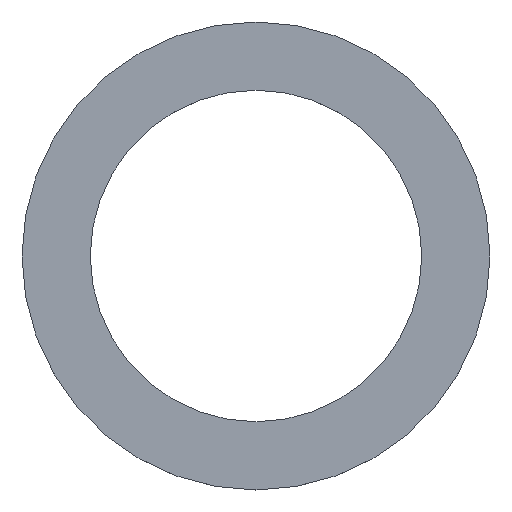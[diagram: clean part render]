
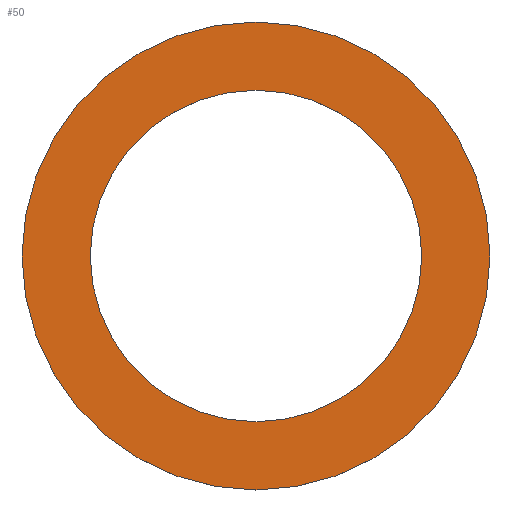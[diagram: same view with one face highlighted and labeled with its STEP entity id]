
A CAD part, top view. The second image highlights one B-rep face of the part: STEP entity #50.
In plain terms, the highlighted planar face has unit normal (0, 0, 1).
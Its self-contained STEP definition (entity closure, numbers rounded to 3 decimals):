
#21 = EDGE_CURVE('',#22,#22,#24,.T.);
#22 = VERTEX_POINT('',#23);
#23 = CARTESIAN_POINT('',(12.,0.,17.7));
#24 = CIRCLE('',#25,12.);
#25 = AXIS2_PLACEMENT_3D('',#26,#27,#28);
#26 = CARTESIAN_POINT('',(0.,0.,17.7));
#27 = DIRECTION('',(0.,0.,1.));
#28 = DIRECTION('',(1.,0.,0.));
#50 = ADVANCED_FACE('',(#51,#54),#65,.T.);
#51 = FACE_BOUND('',#52,.T.);
#52 = EDGE_LOOP('',(#53));
#53 = ORIENTED_EDGE('',*,*,#21,.T.);
#54 = FACE_BOUND('',#55,.T.);
#55 = EDGE_LOOP('',(#56));
#56 = ORIENTED_EDGE('',*,*,#57,.F.);
#57 = EDGE_CURVE('',#58,#58,#60,.T.);
#58 = VERTEX_POINT('',#59);
#59 = CARTESIAN_POINT('',(8.5,0.,17.7));
#60 = CIRCLE('',#61,8.5);
#61 = AXIS2_PLACEMENT_3D('',#62,#63,#64);
#62 = CARTESIAN_POINT('',(0.,0.,17.7));
#63 = DIRECTION('',(0.,0.,1.));
#64 = DIRECTION('',(1.,0.,0.));
#65 = PLANE('',#66);
#66 = AXIS2_PLACEMENT_3D('',#67,#68,#69);
#67 = CARTESIAN_POINT('',(0.,0.,17.7));
#68 = DIRECTION('',(0.,0.,1.));
#69 = DIRECTION('',(1.,0.,0.));
